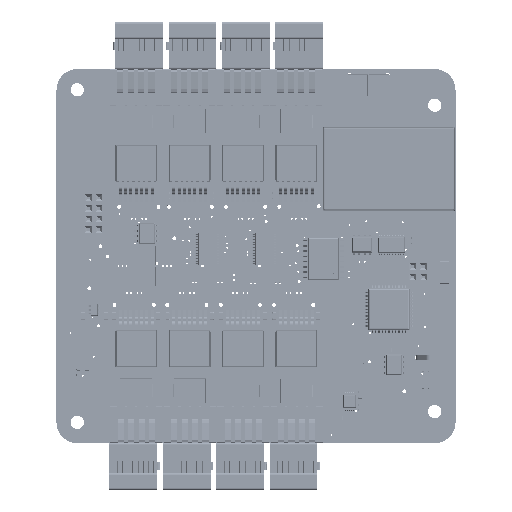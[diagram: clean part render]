
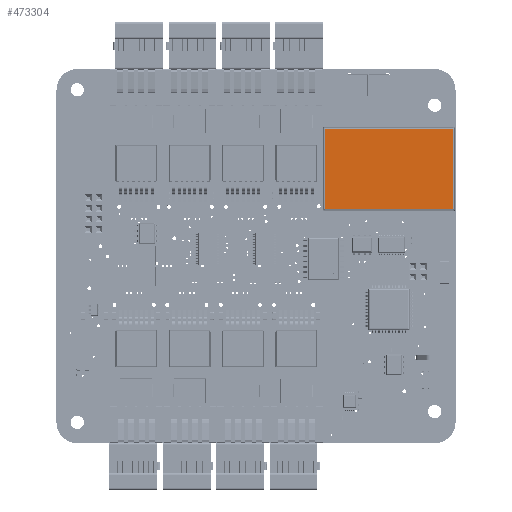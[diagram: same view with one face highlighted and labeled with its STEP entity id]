
A CAD part, top view. The second image highlights one B-rep face of the part: STEP entity #473304.
In plain terms, the highlighted planar face has unit normal (0, 0, 1) as drawn and (0, 1, 0) by its records, which use the part's own axes.
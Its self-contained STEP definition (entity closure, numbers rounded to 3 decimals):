
#14850=PLANE('',#505618);
#35825=FACE_OUTER_BOUND('',#64382,.T.);
#64382=EDGE_LOOP('',(#338544,#338545,#338546,#338547));
#95305=LINE('',#685675,#149291);
#95306=LINE('',#685677,#149292);
#95307=LINE('',#685679,#149293);
#95308=LINE('',#685680,#149294);
#149291=VECTOR('',#554085,1000.);
#149292=VECTOR('',#554086,1000.);
#149293=VECTOR('',#554087,1000.);
#149294=VECTOR('',#554088,1000.);
#218009=VERTEX_POINT('',#685673);
#218010=VERTEX_POINT('',#685674);
#218011=VERTEX_POINT('',#685676);
#218012=VERTEX_POINT('',#685678);
#265085=EDGE_CURVE('',#218009,#218010,#95305,.T.);
#265086=EDGE_CURVE('',#218010,#218011,#95306,.T.);
#265087=EDGE_CURVE('',#218011,#218012,#95307,.T.);
#265088=EDGE_CURVE('',#218012,#218009,#95308,.T.);
#338544=ORIENTED_EDGE('',*,*,#265085,.T.);
#338545=ORIENTED_EDGE('',*,*,#265086,.T.);
#338546=ORIENTED_EDGE('',*,*,#265087,.T.);
#338547=ORIENTED_EDGE('',*,*,#265088,.T.);
#473304=ADVANCED_FACE('',(#35825),#14850,.T.);
#505618=AXIS2_PLACEMENT_3D('',#685672,#554083,#554084);
#554083=DIRECTION('center_axis',(0.,1.,0.));
#554084=DIRECTION('ref_axis',(0.,0.,1.));
#554085=DIRECTION('',(0.,0.,1.));
#554086=DIRECTION('',(1.,0.,0.));
#554087=DIRECTION('',(0.,0.,-1.));
#554088=DIRECTION('',(-1.,0.,0.));
#685672=CARTESIAN_POINT('Origin',(0.,10.2,0.));
#685673=CARTESIAN_POINT('',(-15.438,10.2,-9.688));
#685674=CARTESIAN_POINT('',(-15.438,10.2,9.688));
#685675=CARTESIAN_POINT('',(-15.438,10.2,9.883));
#685676=CARTESIAN_POINT('',(15.438,10.2,9.688));
#685677=CARTESIAN_POINT('',(15.633,10.2,9.688));
#685678=CARTESIAN_POINT('',(15.438,10.2,-9.688));
#685679=CARTESIAN_POINT('',(15.438,10.2,-9.883));
#685680=CARTESIAN_POINT('',(-15.633,10.2,-9.688));
